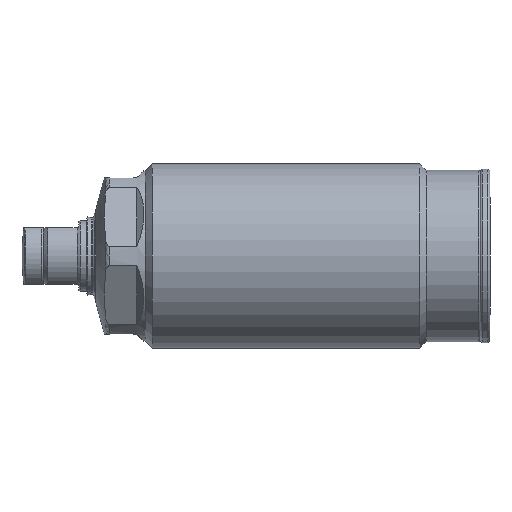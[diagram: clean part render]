
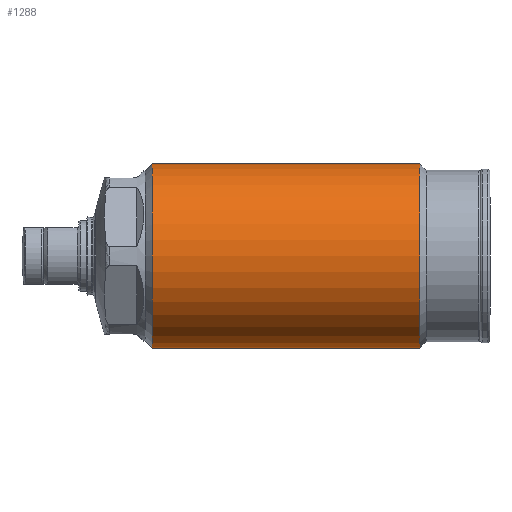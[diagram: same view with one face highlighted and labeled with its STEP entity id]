
A CAD part, left-side view. The second image highlights one B-rep face of the part: STEP entity #1288.
In plain terms, the highlighted cylindrical face has radius 13 mm (diameter 26 mm), a partial arc.
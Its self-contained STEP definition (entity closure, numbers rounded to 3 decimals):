
#960=CYLINDRICAL_SURFACE('',#3677,13.);
#1007=LINE('',#5051,#1107);
#1008=LINE('',#5052,#1108);
#1107=VECTOR('',#4125,1.);
#1108=VECTOR('',#4126,1.);
#1288=ADVANCED_FACE('',(#1521),#960,.T.);
#1521=FACE_OUTER_BOUND('',#1700,.T.);
#1700=EDGE_LOOP('',(#2266,#2267,#2268,#2269));
#2266=ORIENTED_EDGE('',*,*,#2893,.F.);
#2267=ORIENTED_EDGE('',*,*,#3047,.T.);
#2268=ORIENTED_EDGE('',*,*,#2894,.T.);
#2269=ORIENTED_EDGE('',*,*,#3048,.F.);
#2620=VERTEX_POINT('',#5043);
#2621=VERTEX_POINT('',#5045);
#2622=VERTEX_POINT('',#5049);
#2623=VERTEX_POINT('',#5050);
#2893=EDGE_CURVE('',#2623,#2621,#1007,.T.);
#2894=EDGE_CURVE('',#2622,#2620,#1008,.T.);
#3047=EDGE_CURVE('',#2623,#2622,#3321,.T.);
#3048=EDGE_CURVE('',#2621,#2620,#3322,.T.);
#3321=CIRCLE('',#3674,13.);
#3322=CIRCLE('',#3676,13.);
#3674=AXIS2_PLACEMENT_3D('',#5620,#4457,#4458);
#3676=AXIS2_PLACEMENT_3D('',#5622,#4461,#4462);
#3677=AXIS2_PLACEMENT_3D('',#5623,#4463,#4464);
#4125=DIRECTION('',(0.,1.,0.));
#4126=DIRECTION('',(0.,1.,0.));
#4457=DIRECTION('',(0.,1.,0.));
#4458=DIRECTION('',(0.,0.,1.));
#4461=DIRECTION('',(0.,1.,0.));
#4462=DIRECTION('',(0.,0.,1.));
#4463=DIRECTION('',(0.,1.,0.));
#4464=DIRECTION('',(0.,0.,-1.));
#5043=CARTESIAN_POINT('',(19.547,51.366,13.));
#5045=CARTESIAN_POINT('',(19.547,51.366,-13.));
#5049=CARTESIAN_POINT('',(19.547,13.666,13.));
#5050=CARTESIAN_POINT('',(19.547,13.666,-13.));
#5051=CARTESIAN_POINT('',(19.547,76.764,-13.));
#5052=CARTESIAN_POINT('',(19.547,76.764,13.));
#5620=CARTESIAN_POINT('',(19.547,13.666,0.));
#5622=CARTESIAN_POINT('',(19.547,51.366,0.));
#5623=CARTESIAN_POINT('',(19.547,76.764,0.));
